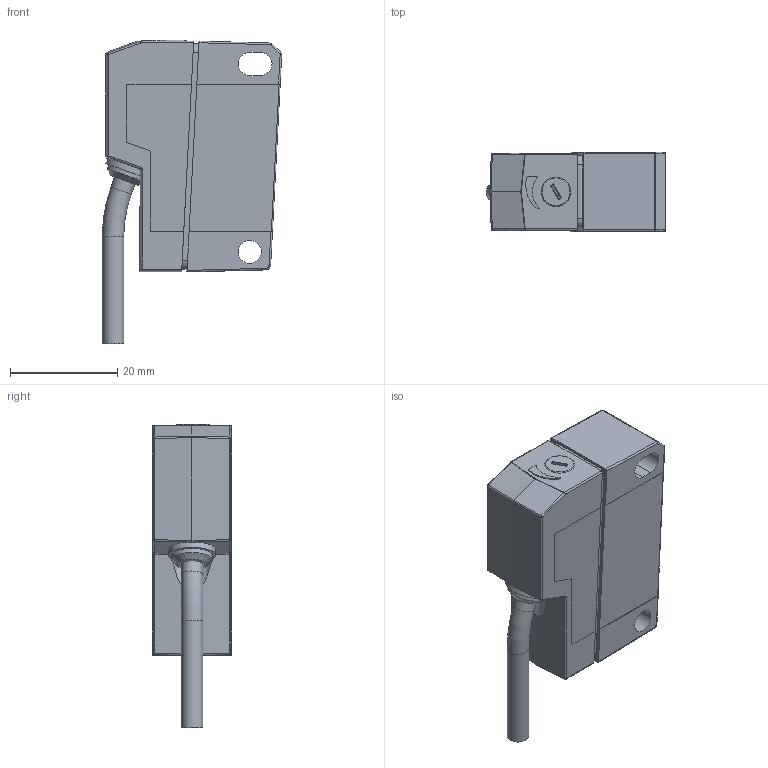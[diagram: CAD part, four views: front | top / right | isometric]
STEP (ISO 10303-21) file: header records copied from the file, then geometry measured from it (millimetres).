
FILE_DESCRIPTION( ( 'Unknown' ), '1' );
FILE_NAME( '//baumerholding.org/frauenfeld/bereich/BECH/Services/me_CAD/Solid Edge/Models/Dokumentationen/Opto/xxDK 14_2009/Vereinfachte Modelle/Neutralformate/xxDK_14_SingleTurn_Kabel.stp', 'Unknown', ( 'Unknown' ), ( 'Unknown' ), 'XStep 1.0', 'Unknown', ' ' );
FILE_SCHEMA( ( 'CONFIG_CONTROL_DESIGN' ) );
Length unit declared in the file: millimetre
Products named in the file (1): 1
Bounding box: 33.43 x 14.8 x 56.59 mm (x, y, z)
Volume: 17523.4 mm3; surface area: 5434.5 mm2
Topology: 1 solids, 1 shells, 151 faces, 358 edges, 215 vertices
Faces by surface type: plane 65, cylinder 65, sphere 12, torus 4, cone 3, bspline 2
Full cylindrical faces by diameter (mm): 4 x2, 4.3 x1, 7.6 x1
Entity records: 4397 total; most frequent: CARTESIAN_POINT 828, DIRECTION 779, ORIENTED_EDGE 696, EDGE_CURVE 348, AXIS2_PLACEMENT_3D 283, VERTEX_POINT 214, LINE 213, VECTOR 213
